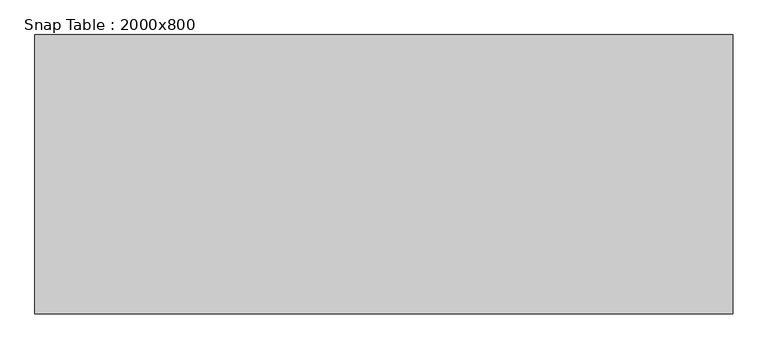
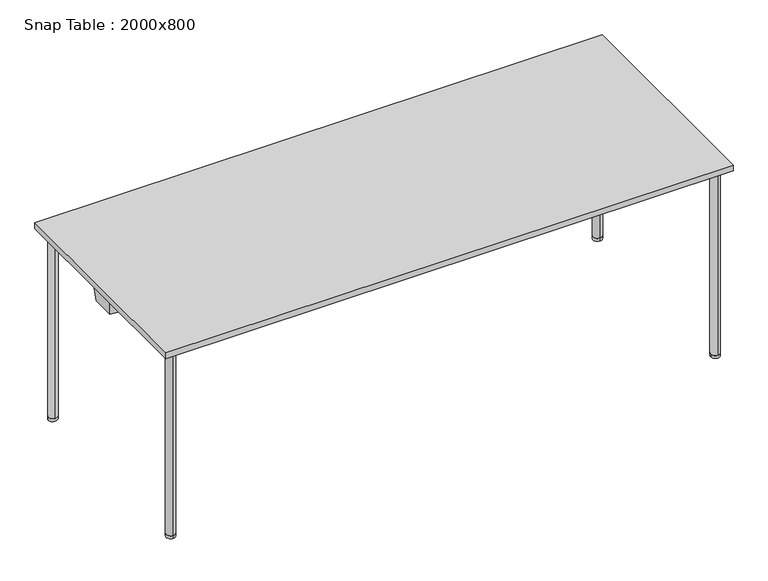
"""IFC4 building model written with IfcOpenShell, lengths in millimetres: furniture geometry, Snap Table : 2000x800."""

from ifc_helpers import new_model, si_unit, point, frame, frame_2d, origin, origin_with_axes, place, context, project, spatial, polyline, circle_curve, ellipse_curve, trimmed, segment, composite_curve, outline, extrude, faceted_brep, source, transform, mapped, element, save
from ifc_brep_helpers import plane_surface, cylinder_surface, revolved_surface, advanced_brep


def snap_table_2000x800_6e876525(model_context):
    return source(origin(), model_context, "Body", "SolidModel", [
        extrude(outline(composite_curve([segment(trimmed(circle_curve(frame_2d((960.0, -360.0)), 16.0), [point((976.0, -360.0))], [point((944.0, -360.0))], False, "CARTESIAN"), True, "CONTINUOUS"), segment(trimmed(circle_curve(frame_2d((960.0, -360.0)), 16.0), [point((944.0, -360.0))], [point((976.0, -360.0))], False, "CARTESIAN"), True, "CONTINUOUS")], self_intersect=False)), origin_with_axes(), (0.0, 0.0, 1.0), 10.0),
        extrude(outline(composite_curve([segment(trimmed(circle_curve(frame_2d((960.0, 360.0)), 16.0), [point((960.0, 344.0))], [point((960.0, 376.0))], False, "CARTESIAN"), True, "CONTINUOUS"), segment(trimmed(circle_curve(frame_2d((960.0, 360.0)), 16.0), [point((960.0, 376.0))], [point((960.0, 344.0))], False, "CARTESIAN"), True, "CONTINUOUS")], self_intersect=False)), origin_with_axes(), (0.0, 0.0, 1.0), 10.0),
        advanced_brep(
        [(960.0, -376.0, 10.0), (960.0, -344.0, 10.0), (960.0, -376.0, 689.0), (960.0, -344.0, 657.0), (960.0, 376.0, 689.0), (960.0, 344.0, 657.0), (960.0, 376.0, 10.0), (960.0, 344.0, 10.0)],
        [
            (0, 1, circle_curve(frame((960.0, -360.0, 10.0), z_axis=(0.0, 0.0, -1.0), x_axis=(0.0, 1.0, 0.0)), 16.0)),
            (1, 0, circle_curve(frame((960.0, -360.0, 10.0), z_axis=(0.0, 0.0, -1.0), x_axis=(0.0, 1.0, 0.0)), 16.0)),
            (0, 2),
            (2, 3, ellipse_curve(frame((960.0, -360.0, 673.0), z_axis=(0.0, -0.7071067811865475, -0.7071067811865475), x_axis=(0.0, 0.7071067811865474, -0.7071067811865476)), 22.627417, 16.0)),
            (3, 1),
            (3, 2, ellipse_curve(frame((960.0, -360.0, 673.0), z_axis=(0.0, -0.7071067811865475, -0.7071067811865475), x_axis=(0.0, 0.7071067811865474, -0.7071067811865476)), 22.627417, 16.0)),
            (2, 4),
            (4, 5, ellipse_curve(frame((960.0, 360.0, 673.0), z_axis=(0.0, -0.7071067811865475, 0.7071067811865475), x_axis=(0.0, -0.7071067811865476, -0.7071067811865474)), 22.627417, 16.0)),
            (5, 3),
            (5, 4, ellipse_curve(frame((960.0, 360.0, 673.0), z_axis=(0.0, -0.7071067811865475, 0.7071067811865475), x_axis=(0.0, -0.7071067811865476, -0.7071067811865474)), 22.627417, 16.0)),
            (6, 7, circle_curve(frame((960.0, 360.0, 10.0), z_axis=(0.0, 0.0, -1.0), x_axis=(0.0, -1.0, 0.0)), 16.0)),
            (7, 6, circle_curve(frame((960.0, 360.0, 10.0), z_axis=(0.0, 0.0, -1.0), x_axis=(0.0, -1.0, 0.0)), 16.0)),
            (4, 6),
            (7, 5),
        ],
        [
            plane_surface(frame((960.0, -360.0, 10.0), z_axis=(0.0, 0.0, -1.0), x_axis=(-1.0, 0.0, 0.0))),
            cylinder_surface(frame((960.0, -360.0, 10.0), z_axis=(0.0, 0.0, -1.0), x_axis=(0.0, 1.0, 0.0)), 16.0),
            cylinder_surface(frame((960.0, -360.0, 673.0), z_axis=(0.0, -1.0, 0.0), x_axis=(0.0, 0.0, -1.0)), 16.0),
            plane_surface(frame((960.0, 360.0, 10.0), z_axis=(0.0, 0.0, -1.0), x_axis=(-1.0, 0.0, 0.0))),
            cylinder_surface(frame((960.0, 360.0, 673.0), z_axis=(0.0, 0.0, 1.0), x_axis=(0.0, -1.0, 0.0)), 16.0),
        ],
        [
            (0, [[1, 2]]),
            (1, [[-1, 3, 4, 5]]),
            (1, [[-2, -5, 6, -3]]),
            (2, [[-4, 7, 8, 9]]),
            (2, [[-6, -9, 10, -7]]),
            (3, [[11, 12]]),
            (4, [[-8, 13, -12, 14]]),
            (4, [[-10, -14, -11, -13]]),
        ],
    ),
        extrude(outline(composite_curve([segment(trimmed(circle_curve(frame_2d((-960.0470276, 360.0)), 16.0), [point((-976.0470276, 360.0))], [point((-944.0470276, 360.0))], False, "CARTESIAN"), True, "CONTINUOUS"), segment(trimmed(circle_curve(frame_2d((-960.0470276, 360.0)), 16.0), [point((-944.0470276, 360.0))], [point((-976.0470276, 360.0))], False, "CARTESIAN"), True, "CONTINUOUS")], self_intersect=False)), origin_with_axes(), (0.0, 0.0, 1.0), 10.0),
        extrude(outline(composite_curve([segment(trimmed(circle_curve(frame_2d((-960.0470276, -360.0)), 16.0), [point((-960.0470276, -344.0))], [point((-960.0470276, -376.0))], False, "CARTESIAN"), True, "CONTINUOUS"), segment(trimmed(circle_curve(frame_2d((-960.0470276, -360.0)), 16.0), [point((-960.0470276, -376.0))], [point((-960.0470276, -344.0))], False, "CARTESIAN"), True, "CONTINUOUS")], self_intersect=False)), origin_with_axes(), (0.0, 0.0, 1.0), 10.0),
        advanced_brep(
        [(-960.0470276, 376.0, 10.0), (-960.0470276, 344.0, 10.0), (-960.0470276, 376.0, 689.0), (-960.0470276, 344.0, 657.0), (-960.0470276, -376.0, 689.0), (-960.0470276, -344.0, 657.0), (-960.0470276, -376.0, 10.0), (-960.0470276, -344.0, 10.0)],
        [
            (0, 1, circle_curve(frame((-960.0470276, 360.0, 10.0), z_axis=(0.0, 0.0, -1.0), x_axis=(0.0, -1.0, 0.0)), 16.0)),
            (1, 0, circle_curve(frame((-960.0470276, 360.0, 10.0), z_axis=(0.0, 0.0, -1.0), x_axis=(0.0, -1.0, 0.0)), 16.0)),
            (0, 2),
            (2, 3, ellipse_curve(frame((-960.0470276, 360.0, 673.0), z_axis=(0.0, 0.7071067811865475, -0.7071067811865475), x_axis=(0.0, -0.7071067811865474, -0.7071067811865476)), 22.627417, 16.0)),
            (3, 1),
            (3, 2, ellipse_curve(frame((-960.0470276, 360.0, 673.0), z_axis=(0.0, 0.7071067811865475, -0.7071067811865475), x_axis=(0.0, -0.7071067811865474, -0.7071067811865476)), 22.627417, 16.0)),
            (2, 4),
            (4, 5, ellipse_curve(frame((-960.0470276, -360.0, 673.0), z_axis=(0.0, 0.7071067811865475, 0.7071067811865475), x_axis=(0.0, 0.7071067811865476, -0.7071067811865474)), 22.627417, 16.0)),
            (5, 3),
            (5, 4, ellipse_curve(frame((-960.0470276, -360.0, 673.0), z_axis=(0.0, 0.7071067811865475, 0.7071067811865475), x_axis=(0.0, 0.7071067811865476, -0.7071067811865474)), 22.627417, 16.0)),
            (6, 7, circle_curve(frame((-960.0470276, -360.0, 10.0), z_axis=(0.0, 0.0, -1.0), x_axis=(0.0, 1.0, 0.0)), 16.0)),
            (7, 6, circle_curve(frame((-960.0470276, -360.0, 10.0), z_axis=(0.0, 0.0, -1.0), x_axis=(0.0, 1.0, 0.0)), 16.0)),
            (4, 6),
            (7, 5),
        ],
        [
            plane_surface(frame((-960.0470276, 360.0, 10.0), z_axis=(0.0, 0.0, -1.0), x_axis=(1.0, 0.0, 0.0))),
            cylinder_surface(frame((-960.0470276, 360.0, 10.0), z_axis=(0.0, 0.0, -1.0), x_axis=(0.0, -1.0, 0.0)), 16.0),
            cylinder_surface(frame((-960.0470276, 360.0, 673.0), z_axis=(0.0, 1.0, 0.0), x_axis=(0.0, 0.0, -1.0)), 16.0),
            plane_surface(frame((-960.0470276, -360.0, 10.0), z_axis=(0.0, 0.0, -1.0), x_axis=(1.0, 0.0, 0.0))),
            cylinder_surface(frame((-960.0470276, -360.0, 673.0), z_axis=(0.0, 0.0, 1.0), x_axis=(0.0, 1.0, 0.0)), 16.0),
        ],
        [
            (0, [[1, 2]]),
            (1, [[-1, 3, 4, 5]]),
            (1, [[-2, -5, 6, -3]]),
            (2, [[-4, 7, 8, 9]]),
            (2, [[-6, -9, 10, -7]]),
            (3, [[11, 12]]),
            (4, [[-8, 13, -12, 14]]),
            (4, [[-10, -14, -11, -13]]),
        ],
    ),
        extrude(outline(polyline([(1000.0, 400.0), (1000.0, -400.0), (-1000.0, -400.0), (-1000.0, 400.0), (1000.0, 400.0)])), frame((0.0, 0.0, 698.0), z_axis=(0.0, 0.0, 1.0), x_axis=(1.0, 0.0, 0.0)), (0.0, 0.0, 1.0), 22.0),
        advanced_brep(
        [(-990.8110657, 42.2236058, 643.0), (-957.6910354, 44.5767873, 643.0), (-940.5708933, 36.0824003, 643.0), (940.5710292, 36.0824678, 643.0), (957.6910354, 44.5767873, 643.0), (990.8110657, 42.2236058, 643.0), (990.8110657, -42.2236058, 643.0), (957.6044607, -44.2417031, 643.0), (940.4018781, -36.0497649, 643.0), (-940.4020196, -36.0498323, 643.0), (-957.6044607, -44.2417031, 643.0), (-990.8110657, -42.2236058, 643.0), (-994.8110657, 48.9570516, 698.0), (-994.8110657, -48.9934252, 698.0), (-956.225892, -51.3383995, 698.0), (-934.6205129, -41.049832, 698.0), (934.6203726, -41.0497651, 698.0), (956.225892, -51.3383995, 698.0), (994.8110657, -48.9934252, 698.0), (994.8110657, 48.9570516, 698.0), (956.286594, 51.6942192, 698.0), (934.8989768, 41.0824675, 698.0), (-934.8988421, 41.0824005, 698.0), (-956.286594, 51.6942192, 698.0), (-957.2475737, -46.0789118, 657.2385232), (-976.0, -46.9489596, 673.0), (-956.4614069, -50.125999, 688.6037931), (-944.0, -41.9922101, 673.0), (957.2475737, -46.0789118, 657.2385232), (944.0, -41.9922101, 673.0), (956.4614069, -50.125999, 688.6037931), (976.0, -46.9489596, 673.0), (957.3278029, 46.4175782, 657.2247231), (976.0, 47.1037405, 673.0), (956.5261576, 50.4801582, 688.618336), (944.0, 42.0461233, 673.0), (-957.3278029, 46.4175782, 657.2247231), (-944.0, 42.0461233, 673.0), (-956.5261576, 50.4801582, 688.618336), (-976.0, 47.1037405, 673.0)],
        [
            (0, 1),
            (1, 2),
            (2, 3),
            (3, 4),
            (4, 5),
            (5, 6),
            (6, 7),
            (7, 8),
            (8, 9),
            (9, 10),
            (10, 11),
            (11, 0),
            (12, 13),
            (13, 14),
            (14, 15),
            (15, 16),
            (16, 17),
            (17, 18),
            (18, 19),
            (19, 20),
            (20, 21),
            (21, 22),
            (22, 23),
            (23, 12),
            (11, 13),
            (12, 0),
            (10, 24),
            (24, 25, ellipse_curve(frame((-960.0, -47.9213432, 673.0), z_axis=(0.060176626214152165, 0.9901710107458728, 0.1262542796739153), x_axis=(0.42602826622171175, -0.1398619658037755, 0.893833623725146)), 16.1588249, 16.0)),
            (25, 26, ellipse_curve(frame((-960.0, -47.9213432, 673.0), z_axis=(0.060176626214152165, 0.9901710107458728, 0.1262542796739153), x_axis=(0.42602826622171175, -0.1398619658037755, 0.893833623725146)), 16.1588249, 16.0)),
            (26, 14),
            (9, 15),
            (26, 27, ellipse_curve(frame((-960.0, -49.6114737, 673.0), z_axis=(-0.4265030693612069, 0.8956310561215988, 0.12625427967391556), x_axis=(-0.8587935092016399, -0.44479771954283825, 0.25422174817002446)), 17.8644989, 16.0)),
            (27, 24, ellipse_curve(frame((-960.0, -49.6114737, 673.0), z_axis=(-0.4265030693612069, 0.8956310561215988, 0.12625427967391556), x_axis=(-0.8587935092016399, -0.44479771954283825, 0.25422174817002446)), 17.8644989, 16.0)),
            (8, 16),
            (7, 28),
            (28, 29, ellipse_curve(frame((960.0, -49.6114737, 673.0), z_axis=(0.4265030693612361, 0.8956310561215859, 0.12625427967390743), x_axis=(0.8587935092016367, -0.4447977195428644, 0.2542217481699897)), 17.8644989, 16.0)),
            (29, 30, ellipse_curve(frame((960.0, -49.6114737, 673.0), z_axis=(0.4265030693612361, 0.8956310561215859, 0.12625427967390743), x_axis=(0.8587935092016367, -0.4447977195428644, 0.2542217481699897)), 17.8644989, 16.0)),
            (30, 17),
            (6, 18),
            (30, 31, ellipse_curve(frame((960.0, -47.9213432, 673.0), z_axis=(-0.06017662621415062, 0.9901710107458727, 0.12625427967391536), x_axis=(-0.4260282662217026, -0.1398619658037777, 0.8938336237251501)), 16.1588249, 16.0)),
            (31, 28, ellipse_curve(frame((960.0, -47.9213432, 673.0), z_axis=(-0.06017662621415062, 0.9901710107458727, 0.12625427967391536), x_axis=(-0.4260282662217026, -0.1398619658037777, 0.8938336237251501)), 16.1588249, 16.0)),
            (5, 19),
            (4, 32),
            (32, 33, ellipse_curve(frame((960.0, 48.2405422, 673.0), z_axis=(-0.07030432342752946, -0.9895034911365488, 0.12625427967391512), x_axis=(0.4813983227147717, -0.14450896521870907, -0.8645072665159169)), 16.1697257, 16.0)),
            (33, 34, ellipse_curve(frame((960.0, 48.2405422, 673.0), z_axis=(-0.07030432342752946, -0.9895034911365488, 0.12625427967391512), x_axis=(0.4813983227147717, -0.14450896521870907, -0.8645072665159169)), 16.1697257, 16.0)),
            (34, 20),
            (3, 21),
            (34, 35, ellipse_curve(frame((960.0, 49.9847369, 673.0), z_axis=(0.4409053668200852, -0.8886294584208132, 0.12625427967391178), x_axis=(-0.854294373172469, -0.45862586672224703, -0.24462918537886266)), 18.005255, 16.0)),
            (35, 32, ellipse_curve(frame((960.0, 49.9847369, 673.0), z_axis=(0.4409053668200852, -0.8886294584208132, 0.12625427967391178), x_axis=(-0.854294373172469, -0.45862586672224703, -0.24462918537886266)), 18.005255, 16.0)),
            (2, 22),
            (1, 36),
            (36, 37, ellipse_curve(frame((-960.0, 49.9847369, 673.0), z_axis=(-0.44090536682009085, -0.8886294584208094, 0.12625427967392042), x_axis=(0.8542943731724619, -0.45862586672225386, -0.24462918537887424)), 18.005255, 16.0)),
            (37, 38, ellipse_curve(frame((-960.0, 49.9847369, 673.0), z_axis=(-0.44090536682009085, -0.8886294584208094, 0.12625427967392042), x_axis=(0.8542943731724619, -0.45862586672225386, -0.24462918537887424)), 18.005255, 16.0)),
            (38, 23),
            (38, 39, ellipse_curve(frame((-960.0, 48.2405422, 673.0), z_axis=(0.07030432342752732, -0.9895034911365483, 0.12625427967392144), x_axis=(-0.48139832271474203, -0.14450896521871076, -0.8645072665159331)), 16.1697257, 16.0)),
            (39, 36, ellipse_curve(frame((-960.0, 48.2405422, 673.0), z_axis=(0.07030432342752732, -0.9895034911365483, 0.12625427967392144), x_axis=(-0.48139832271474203, -0.14450896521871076, -0.8645072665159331)), 16.1697257, 16.0)),
            (35, 29),
            (31, 33),
            (39, 25),
            (27, 37),
        ],
        [
            plane_surface(frame((-5e-07, 0.0612866, 643.0), z_axis=(0.0, 0.0, -1.0), x_axis=(0.0, -1.0, 0.0))),
            plane_surface(frame((-5e-07, 0.0586803, 698.0), z_axis=(0.0, 0.0, 1.0), x_axis=(0.0, -1.0, 0.0))),
            plane_surface(frame((-994.8110657, -0.0181868, 698.0), z_axis=(-0.9973658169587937, 0.0, -0.07253569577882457), x_axis=(0.0, 1.0, 0.0))),
            plane_surface(frame((-975.5184789, -50.1659123, 698.0), z_axis=(-0.060176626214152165, -0.9901710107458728, -0.1262542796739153), x_axis=(-0.9981583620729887, 0.06066204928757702, 0.0))),
            plane_surface(frame((-945.4232025, -46.1941158, 698.0), z_axis=(0.4265030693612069, -0.8956310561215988, -0.12625427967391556), x_axis=(-0.9028557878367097, -0.4299435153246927, 0.0))),
            plane_surface(frame((-7.01e-05, -41.0497986, 698.0), z_axis=(3.5692921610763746e-08, -0.9958932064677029, -0.09053574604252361), x_axis=(-0.9999999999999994, -3.584010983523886e-08, 0.0))),
            plane_surface(frame((945.4231323, -46.1940824, 698.0), z_axis=(-0.4265030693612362, -0.8956310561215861, -0.12625427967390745), x_axis=(-0.9028557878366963, 0.42994351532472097, 0.0))),
            plane_surface(frame((975.5184789, -50.1659123, 698.0), z_axis=(0.06017662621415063, -0.9901710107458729, -0.1262542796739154), x_axis=(-0.9981583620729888, -0.060662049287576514, 0.0))),
            plane_surface(frame((994.8110657, -0.0181868, 698.0), z_axis=(0.997365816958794, 0.0, -0.07253569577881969), x_axis=(0.0, -1.0, 0.0))),
            plane_surface(frame((975.5488298, 50.3256354, 698.0), z_axis=(0.07030432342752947, 0.989503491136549, -0.12625427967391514), x_axis=(0.9974854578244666, -0.07087144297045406, 0.0))),
            plane_surface(frame((945.5927854, 46.3883433, 698.0), z_axis=(-0.4409053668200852, 0.8886294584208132, -0.12625427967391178), x_axis=(0.8957977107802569, 0.44446199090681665, 0.0))),
            plane_surface(frame((6.73e-05, 41.082434, 698.0), z_axis=(-3.569592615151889e-08, 0.9958932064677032, -0.09053574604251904), x_axis=(0.9999999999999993, 3.584312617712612e-08, 0.0))),
            plane_surface(frame((-945.5927181, 46.3883099, 698.0), z_axis=(0.44090536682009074, 0.8886294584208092, -0.1262542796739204), x_axis=(0.8957977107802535, -0.4444619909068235, 0.0))),
            plane_surface(frame((-975.5488298, 50.3256354, 698.0), z_axis=(-0.07030432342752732, 0.9895034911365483, -0.12625427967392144), x_axis=(0.9974854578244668, 0.07087144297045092, 0.0))),
            revolved_surface(polyline([(976.0, -57.55756207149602, 673.0), (976.0, 58.242412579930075, 673.0)]), (960.0, 70.0, 673.0), (0.0, -1.0, 0.0)),
            revolved_surface(polyline([(-976.0, -57.55756207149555, 673.0), (-976.0, 58.242412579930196, 673.0)]), (-960.0, 70.0, 673.0), (0.0, -1.0, 0.0)),
        ],
        [
            (0, [[1, 2, 3, 4, 5, 6, 7, 8, 9, 10, 11, 12]]),
            (1, [[13, 14, 15, 16, 17, 18, 19, 20, 21, 22, 23, 24]]),
            (2, [[-12, 25, -13, 26]]),
            (3, [[-11, 27, 28, 29, 30, -14, -25]]),
            (4, [[-10, 31, -15, -30, 32, 33, -27]]),
            (5, [[-9, 34, -16, -31]]),
            (6, [[-8, 35, 36, 37, 38, -17, -34]]),
            (7, [[-7, 39, -18, -38, 40, 41, -35]]),
            (8, [[-6, 42, -19, -39]]),
            (9, [[-5, 43, 44, 45, 46, -20, -42]]),
            (10, [[-4, 47, -21, -46, 48, 49, -43]]),
            (11, [[-3, 50, -22, -47]]),
            (12, [[-2, 51, 52, 53, 54, -23, -50]]),
            (13, [[-1, -26, -24, -54, 55, 56, -51]]),
            (14, [[57, -36, -41, 58, -44, -49]]),
            (14, [[-57, -48, -45, -58, -40, -37]]),
            (15, [[59, -28, -33, 60, -52, -56]]),
            (15, [[-59, -55, -53, -60, -32, -29]]),
        ],
    ),
        faceted_brep([(930.1271057, 282.1409864, 643.0), (930.1271057, 327.0366315, 643.0), (941.3990784, 327.0366315, 643.0), (941.3990784, 282.1409864, 643.0), (926.2186584, 278.0138349, 688.0), (944.2631531, 278.0138349, 688.0), (944.2631531, 331.163783, 688.0), (926.2186584, 331.163783, 688.0)], [[[0, 1, 2, 3]], [[4, 5, 6, 7]], [[5, 4, 0, 3]], [[6, 5, 3, 2]], [[7, 6, 2, 1]], [[4, 7, 1, 0]]]),
        extrude(outline(polyline([(926.2186584, 331.163783), (977.86026, 331.163783), (977.86026, 278.0138349), (926.2186584, 278.0138349), (926.2186584, 331.163783)])), frame((0.0, 0.0, 688.0), z_axis=(0.0, 0.0, 1.0), x_axis=(1.0, 0.0, 0.0)), (0.0, 0.0, 1.0), 10.0),
        faceted_brep([(930.1271057, -282.1409864, 643.0), (941.3990784, -282.1409864, 643.0), (941.3990784, -327.0366315, 643.0), (930.1271057, -327.0366315, 643.0), (926.2186584, -278.0138349, 688.0), (926.2186584, -331.163783, 688.0), (944.2631531, -331.163783, 688.0), (944.2631531, -278.0138349, 688.0)], [[[0, 1, 2, 3]], [[4, 5, 6, 7]], [[4, 7, 1, 0]], [[7, 6, 2, 1]], [[6, 5, 3, 2]], [[5, 4, 0, 3]]]),
        extrude(outline(polyline([(926.2186584, -331.163783), (926.2186584, -278.0138349), (977.86026, -278.0138349), (977.86026, -331.163783), (926.2186584, -331.163783)])), frame((0.0, 0.0, 688.0), z_axis=(0.0, 0.0, 1.0), x_axis=(1.0, 0.0, 0.0)), (0.0, 0.0, 1.0), 10.0),
        faceted_brep([(-930.1271057, 282.1409864, 643.0), (-941.3990784, 282.1409864, 643.0), (-941.3990784, 327.0366315, 643.0), (-930.1271057, 327.0366315, 643.0), (-926.2186584, 278.0138349, 688.0), (-926.2186584, 331.163783, 688.0), (-944.2631531, 331.163783, 688.0), (-944.2631531, 278.0138349, 688.0)], [[[0, 1, 2, 3]], [[4, 5, 6, 7]], [[4, 7, 1, 0]], [[7, 6, 2, 1]], [[6, 5, 3, 2]], [[5, 4, 0, 3]]]),
        extrude(outline(polyline([(-926.2186584, 331.163783), (-926.2186584, 278.0138349), (-977.86026, 278.0138349), (-977.86026, 331.163783), (-926.2186584, 331.163783)])), frame((0.0, 0.0, 688.0), z_axis=(0.0, 0.0, 1.0), x_axis=(1.0, 0.0, 0.0)), (0.0, 0.0, 1.0), 10.0),
        faceted_brep([(-930.1271057, -282.1409864, 643.0), (-930.1271057, -327.0366315, 643.0), (-941.3990784, -327.0366315, 643.0), (-941.3990784, -282.1409864, 643.0), (-926.2186584, -278.0138349, 688.0), (-944.2631531, -278.0138349, 688.0), (-944.2631531, -331.163783, 688.0), (-926.2186584, -331.163783, 688.0)], [[[0, 1, 2, 3]], [[4, 5, 6, 7]], [[5, 4, 0, 3]], [[6, 5, 3, 2]], [[7, 6, 2, 1]], [[4, 7, 1, 0]]]),
        extrude(outline(polyline([(-926.2186584, -331.163783), (-977.86026, -331.163783), (-977.86026, -278.0138349), (-926.2186584, -278.0138349), (-926.2186584, -331.163783)])), frame((0.0, 0.0, 688.0), z_axis=(0.0, 0.0, 1.0), x_axis=(1.0, 0.0, 0.0)), (0.0, 0.0, 1.0), 10.0),
    ])


if __name__ == "__main__":
    model = new_model("IFC4")
    model_context = context("Model", 3, world=origin())
    ifc_project = project(units=[si_unit("LENGTHUNIT", "METRE", prefix="MILLI")], contexts=[model_context])
    site = spatial("IfcSite", under=ifc_project)
    building = spatial("IfcBuilding", under=site)
    placement = place(None, origin())
    snap_table_2000x800_shape = snap_table_2000x800_6e876525(model_context)
    element("IfcFurniture", 1, ObjectType="Snap Table : 2000x800", at=placement, inside=building, context=model_context, shape_type="MappedRepresentation", body=[
        mapped(snap_table_2000x800_shape, transform((0.0, 0.0, 0.0), x_axis=(1.0, 0.0, 0.0), y_axis=(0.0, 1.0, 0.0), z_axis=(0.0, 0.0, 1.0))),
    ])
    save(model, "model.ifc")
